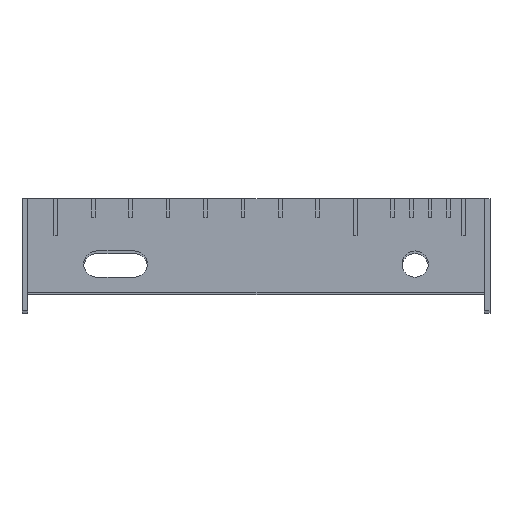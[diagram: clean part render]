
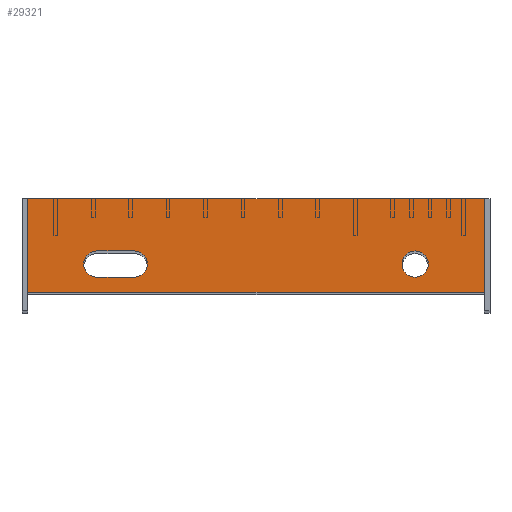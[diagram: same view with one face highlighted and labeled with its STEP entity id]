
A CAD part, top view. The second image highlights one B-rep face of the part: STEP entity #29321.
In plain terms, the highlighted planar face has unit normal (0, 0, 1).
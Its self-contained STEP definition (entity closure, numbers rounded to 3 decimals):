
#38 = VERTEX_POINT ( 'NONE', #17087 ) ;
#459 = CARTESIAN_POINT ( 'NONE',  ( 244., 50., 0. ) ) ;
#993 = CARTESIAN_POINT ( 'NONE',  ( 57., 22., 0. ) ) ;
#3611 = DIRECTION ( 'NONE',  ( 1., 0., 0. ) ) ;
#4614 = FACE_OUTER_BOUND ( 'NONE', #39381, .T. ) ;
#4772 = VECTOR ( 'NONE', #13985, 1000. ) ;
#5655 = EDGE_LOOP ( 'NONE', ( #40363, #19582, #53579, #26629 ) ) ;
#5707 = VERTEX_POINT ( 'NONE', #993 ) ;
#6693 = VECTOR ( 'NONE', #3611, 1000. ) ;
#7219 = CARTESIAN_POINT ( 'NONE',  ( 0., 50., 0. ) ) ;
#8249 = LINE ( 'NONE', #25110, #53366 ) ;
#8840 = CIRCLE ( 'NONE', #14546, 7. ) ;
#8857 = ORIENTED_EDGE ( 'NONE', *, *, #35661, .T. ) ;
#9957 = CARTESIAN_POINT ( 'NONE',  ( 214., 15., 0. ) ) ;
#11260 = EDGE_LOOP ( 'NONE', ( #41459 ) ) ;
#11286 = CARTESIAN_POINT ( 'NONE',  ( 0., 0., 0. ) ) ;
#12257 = VECTOR ( 'NONE', #26857, 1000. ) ;
#13158 = CARTESIAN_POINT ( 'NONE',  ( 37., 22., 0. ) ) ;
#13539 = VERTEX_POINT ( 'NONE', #52789 ) ;
#13593 = CIRCLE ( 'NONE', #52409, 7. ) ;
#13985 = DIRECTION ( 'NONE',  ( -1., 0., 0. ) ) ;
#14026 = VERTEX_POINT ( 'NONE', #16788 ) ;
#14103 = DIRECTION ( 'NONE',  ( 1., 0., 0. ) ) ;
#14546 = AXIS2_PLACEMENT_3D ( 'NONE', #46621, #20417, #50992 ) ;
#15273 = VERTEX_POINT ( 'NONE', #34652 ) ;
#15741 = EDGE_CURVE ( 'NONE', #49885, #55228, #50469, .T. ) ;
#16788 = CARTESIAN_POINT ( 'NONE',  ( 37., 8., 0. ) ) ;
#17087 = CARTESIAN_POINT ( 'NONE',  ( 57., 8., 0. ) ) ;
#17368 = CARTESIAN_POINT ( 'NONE',  ( 207., 15., 0. ) ) ;
#18560 = VERTEX_POINT ( 'NONE', #13158 ) ;
#19582 = ORIENTED_EDGE ( 'NONE', *, *, #36437, .F. ) ;
#20072 = DIRECTION ( 'NONE',  ( 0., 0., -1. ) ) ;
#20417 = DIRECTION ( 'NONE',  ( 0., 0., 1. ) ) ;
#21060 = LINE ( 'NONE', #25562, #6693 ) ;
#21223 = CARTESIAN_POINT ( 'NONE',  ( 0., 50., 0. ) ) ;
#21802 = DIRECTION ( 'NONE',  ( 1., 0., 0. ) ) ;
#21829 = DIRECTION ( 'NONE',  ( 0., 0., 1. ) ) ;
#23893 = LINE ( 'NONE', #39885, #12257 ) ;
#23895 = CIRCLE ( 'NONE', #24407, 7. ) ;
#24407 = AXIS2_PLACEMENT_3D ( 'NONE', #17368, #48002, #21802 ) ;
#24700 = AXIS2_PLACEMENT_3D ( 'NONE', #11286, #20072, #50650 ) ;
#25110 = CARTESIAN_POINT ( 'NONE',  ( 244., 0., 0. ) ) ;
#25562 = CARTESIAN_POINT ( 'NONE',  ( 57., 8., 0. ) ) ;
#26629 = ORIENTED_EDGE ( 'NONE', *, *, #43295, .F. ) ;
#26857 = DIRECTION ( 'NONE',  ( 0., -1., 0. ) ) ;
#26877 = EDGE_CURVE ( 'NONE', #55228, #15273, #23893, .T. ) ;
#29321 = ADVANCED_FACE ( 'NONE', ( #38156, #51122, #4614 ), #46270, .F. ) ;
#29513 = DIRECTION ( 'NONE',  ( 0., 1., 0. ) ) ;
#31064 = LINE ( 'NONE', #49091, #41346 ) ;
#31242 = EDGE_CURVE ( 'NONE', #15273, #13539, #31064, .T. ) ;
#34652 = CARTESIAN_POINT ( 'NONE',  ( 0., 0., 0. ) ) ;
#35661 = EDGE_CURVE ( 'NONE', #13539, #49885, #8249, .T. ) ;
#35937 = EDGE_CURVE ( 'NONE', #5707, #18560, #38305, .T. ) ;
#36437 = EDGE_CURVE ( 'NONE', #38, #5707, #13593, .T. ) ;
#36942 = EDGE_CURVE ( 'NONE', #14026, #38, #21060, .T. ) ;
#38156 = FACE_BOUND ( 'NONE', #5655, .T. ) ;
#38305 = LINE ( 'NONE', #40205, #4772 ) ;
#39381 = EDGE_LOOP ( 'NONE', ( #52401, #50828, #8857, #48480 ) ) ;
#39885 = CARTESIAN_POINT ( 'NONE',  ( 0., 0., 0. ) ) ;
#40205 = CARTESIAN_POINT ( 'NONE',  ( 57., 22., 0. ) ) ;
#40363 = ORIENTED_EDGE ( 'NONE', *, *, #35937, .F. ) ;
#41346 = VECTOR ( 'NONE', #14103, 1000. ) ;
#41459 = ORIENTED_EDGE ( 'NONE', *, *, #50391, .F. ) ;
#43295 = EDGE_CURVE ( 'NONE', #18560, #14026, #8840, .T. ) ;
#44373 = VECTOR ( 'NONE', #47407, 1000. ) ;
#46270 = PLANE ( 'NONE',  #24700 ) ;
#46621 = CARTESIAN_POINT ( 'NONE',  ( 37., 15., 0. ) ) ;
#47407 = DIRECTION ( 'NONE',  ( -1., 0., 0. ) ) ;
#48002 = DIRECTION ( 'NONE',  ( 0., 0., 1. ) ) ;
#48017 = CARTESIAN_POINT ( 'NONE',  ( 57., 15., 0. ) ) ;
#48480 = ORIENTED_EDGE ( 'NONE', *, *, #15741, .T. ) ;
#49091 = CARTESIAN_POINT ( 'NONE',  ( 0., 0., 0. ) ) ;
#49885 = VERTEX_POINT ( 'NONE', #459 ) ;
#50391 = EDGE_CURVE ( 'NONE', #53286, #53286, #23895, .T. ) ;
#50469 = LINE ( 'NONE', #21223, #44373 ) ;
#50650 = DIRECTION ( 'NONE',  ( -1., 0., 0. ) ) ;
#50828 = ORIENTED_EDGE ( 'NONE', *, *, #31242, .T. ) ;
#50992 = DIRECTION ( 'NONE',  ( 1., 0., 0. ) ) ;
#51122 = FACE_BOUND ( 'NONE', #11260, .T. ) ;
#52385 = DIRECTION ( 'NONE',  ( 1., 0., 0. ) ) ;
#52401 = ORIENTED_EDGE ( 'NONE', *, *, #26877, .T. ) ;
#52409 = AXIS2_PLACEMENT_3D ( 'NONE', #48017, #21829, #52385 ) ;
#52789 = CARTESIAN_POINT ( 'NONE',  ( 244., 0., 0. ) ) ;
#53286 = VERTEX_POINT ( 'NONE', #9957 ) ;
#53366 = VECTOR ( 'NONE', #29513, 1000. ) ;
#53579 = ORIENTED_EDGE ( 'NONE', *, *, #36942, .F. ) ;
#55228 = VERTEX_POINT ( 'NONE', #7219 ) ;
